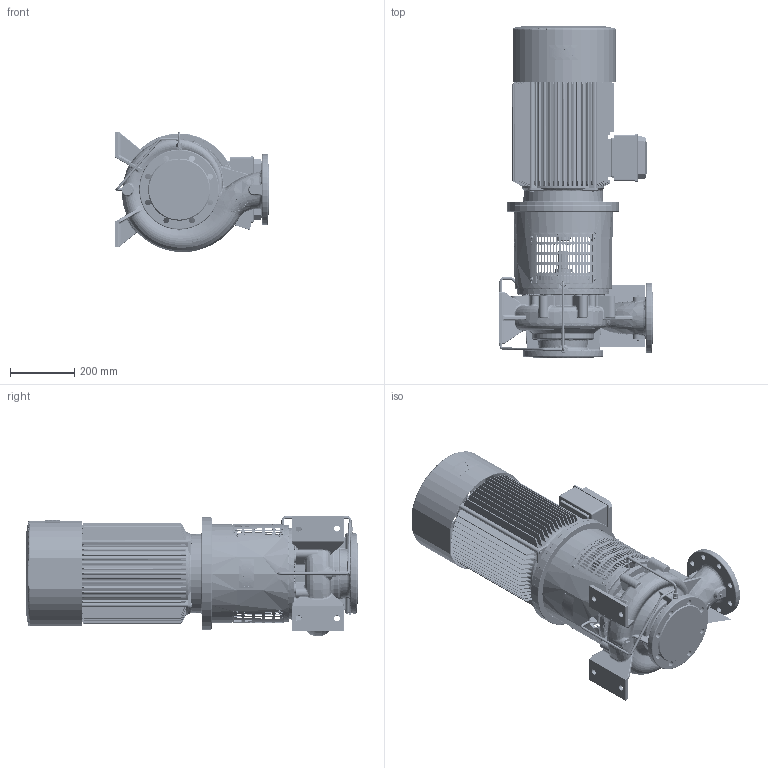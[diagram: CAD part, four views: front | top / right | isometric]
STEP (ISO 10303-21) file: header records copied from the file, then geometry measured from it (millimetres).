
FILE_DESCRIPTION((''),'2;1');
FILE_NAME('NSLV100-215_A02_ASM','2019-05-20T',('BRHE'),(''),'PRO/ENGINEER BY PARAMETRIC TECHNOLOGY CORPORATION, 2017170','PRO/ENGINEER BY PARAMETRIC TECHNOLOGY CORPORATION, 2017170','');
FILE_SCHEMA(('CONFIG_CONTROL_DESIGN'));
Products named in the file (23): 523070; 704390; 704186; 506962; 506711; 515211; 110306; 512910; 704047_AF1; 704263; 704286-276; 655965_PN10_ASM; 510800; 110554_AF0; 703723; 706717; 704048_AF0; 672702-1_ASM; 110533; 672119_AF0_ASM; 842423; 704048_AF1; NSLV100-215_A02_ASM
Assembly tree (40 placements, depth 3):
  NSLV100-215_A02_ASM
    655965_PN10_ASM
      523070
      704390
      704186
      506962
      506711
      515211
      110306
      512910
      704047_AF1
      704263  x2
      704286-276
    672702-1_ASM
      510800
      110554_AF0  x2
      703723  x8
      706717  x8
      704048_AF0
    672119_AF0_ASM
      110533
    704390  x2
    842423
    704048_AF1
Bounding box: 480 x 1035.5 x 375.51 mm (x, y, z)
Volume: 47714940.5 mm3; surface area: 4838242.2 mm2
Topology: 38 solids, 114 shells, 6310 faces, 16744 edges, 10730 vertices
Faces by surface type: bspline 2057, plane 2049, cylinder 1268, cone 474, torus 287, sphere 97, extrusion 78
Entity records: 341720 total; most frequent: CARTESIAN_POINT 217796, ORIENTED_EDGE 28680, DIRECTION 20350, EDGE_CURVE 14515, VERTEX_POINT 9296, AXIS2_PLACEMENT_3D 7150, EDGE_LOOP 6167, VECTOR 6050
